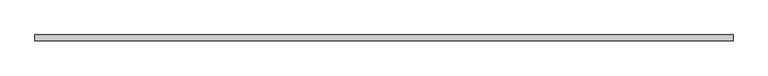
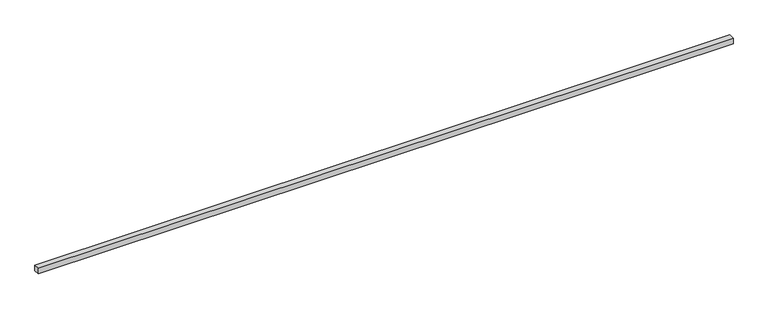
"""IFC4 building model written with IfcOpenShell, lengths in millimetres: light fixture geometry, AI_Luminaire_CONCEPT S_Linéaire : CONCEPTION S."""

from ifc_helpers import new_model, si_unit, frame, origin, place, context, project, spatial, polyline, outline, extrude, source, transform, mapped, element, save


def light_fixture_0e94ac83(model_context):
    return source(origin(), model_context, "Body", "SweptSolid", [
        extrude(outline(polyline([(3302.7349155, -27.5), (-3302.7349155, -27.5), (-3302.7349155, 27.5), (3302.7349155, 27.5), (3302.7349155, -27.5)])), frame((0.0, 0.0, -56.0), z_axis=(0.0, 0.0, 1.0), x_axis=(1.0, 0.0, 0.0)), (0.0, 0.0, 1.0), 56.0),
    ])


if __name__ == "__main__":
    model = new_model("IFC4")
    model_context = context("Model", 3, world=origin())
    ifc_project = project(units=[si_unit("LENGTHUNIT", "METRE", prefix="MILLI")], contexts=[model_context])
    site = spatial("IfcSite", under=ifc_project)
    building = spatial("IfcBuilding", under=site)
    placement = place(None, origin())
    light_fixture_shape = light_fixture_0e94ac83(model_context)
    element("IfcLightFixture", 1, ObjectType="AI_Luminaire_CONCEPT S_Linéaire : CONCEPTION S", at=placement, inside=building, context=model_context, shape_type="MappedRepresentation", body=[
        mapped(light_fixture_shape, transform((0.0, 0.0, 0.0), x_axis=(1.0, 0.0, 0.0), y_axis=(0.0, 1.0, 0.0), z_axis=(0.0, 0.0, 1.0))),
    ])
    save(model, "model.ifc")
